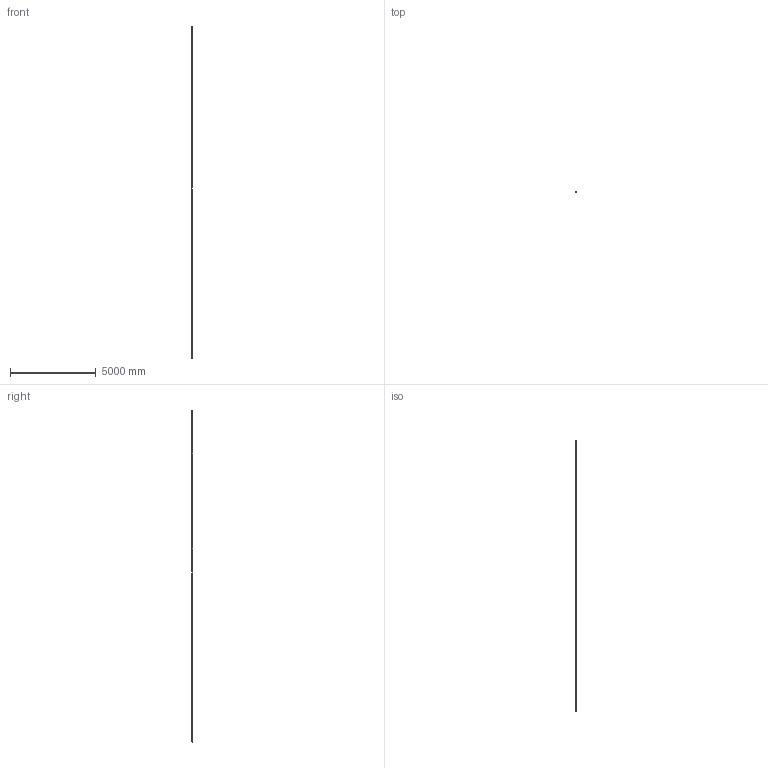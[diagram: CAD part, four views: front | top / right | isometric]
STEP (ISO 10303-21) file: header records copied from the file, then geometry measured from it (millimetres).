
FILE_DESCRIPTION(('Creo Elements/Direct Modeling STEP Export'),'2;1');
FILE_NAME('L-190.stp','2011-11-29T14:58:22',(''),(''),'Creo Elements/Direct Modeling STEP processor for AP214 (Solid Model)','Creo Elements/Direct Modeling 17.0C 05-Feb-2011 (C) Parametric Technology GmbH','');
FILE_SCHEMA(('AUTOMOTIVE_DESIGN { 1 0 10303 214 1 1 1 1 }'));
Length unit declared in the file: millimetre
Products named in the file (5): Modulos_intermedio_(FL-14).5; CABEZA; Modulo_der_(22-ET); Modulo_izq_(L-KT); L-190
Assembly tree (14 placements, depth 2):
  L-190
    Modulos_intermedio_(FL-14).5  x11
    Modulo_izq_(L-KT)
    Modulo_der_(22-ET)
    CABEZA
Bounding box: 51.5 x 87.95 x 19349.1 mm (x, y, z)
Volume: 42915488.8 mm3; surface area: 5681257.1 mm2
Topology: 35 solids, 152 shells, 8795 faces, 24452 edges, 15633 vertices
Faces by surface type: cylinder 3869, plane 3348, cone 670, torus 430, bspline 332, extrusion 120, sphere 26
Entity records: 131536 total; most frequent: CARTESIAN_POINT 38528, ORIENTED_EDGE 19626, DIRECTION 17584, EDGE_CURVE 9793, VERTEX_POINT 6351, AXIS2_PLACEMENT_3D 6263, VECTOR 5058, LINE 5038
